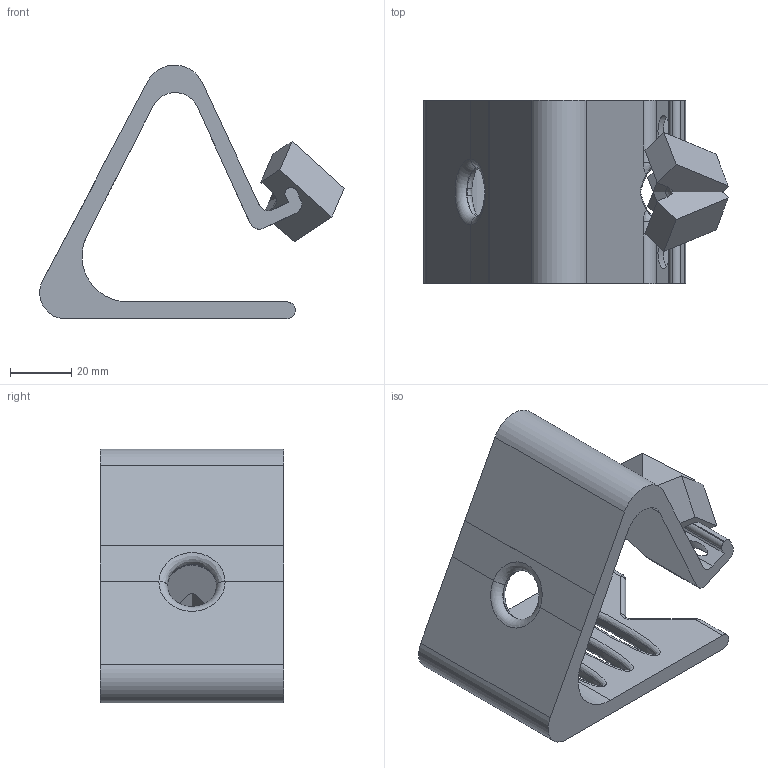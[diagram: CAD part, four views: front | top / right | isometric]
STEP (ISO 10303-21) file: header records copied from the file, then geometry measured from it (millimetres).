
FILE_DESCRIPTION(/* description */ (''),/* implementation_level */ '2;1');
FILE_NAME(/* name */ 'phone_holder.stp',/* time_stamp */ '2018-06-22T13:16:27+02:00',/* author */ (''),/* organization */ (''),/* preprocessor_version */ 'ST-DEVELOPER v16',/* originating_system */ 'SIEMENS PLM Software NX 11.0',/* authorisation */ '');
FILE_SCHEMA (('AUTOMOTIVE_DESIGN { 1 0 10303 214 3 1 1 1 }'));
Length unit declared in the file: millimetre
Products named in the file (1): phone_holder
Bounding box: 99.8 x 60 x 83.16 mm (x, y, z)
Volume: 92052.3 mm3; surface area: 34068.4 mm2
Topology: 3 solids, 3 shells, 102 faces, 287 edges, 185 vertices
Faces by surface type: plane 45, cylinder 29, bspline 20, extrusion 5, torus 3
Full cylindrical faces by diameter (mm): 16 x1
Entity records: 5371 total; most frequent: CARTESIAN_POINT 2935, ORIENTED_EDGE 528, DIRECTION 442, EDGE_CURVE 264, VERTEX_POINT 176, AXIS2_PLACEMENT_3D 159, VECTOR 124, EDGE_LOOP 122
